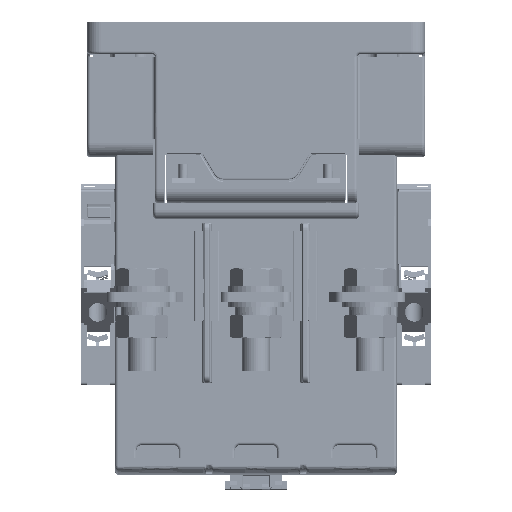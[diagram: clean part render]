
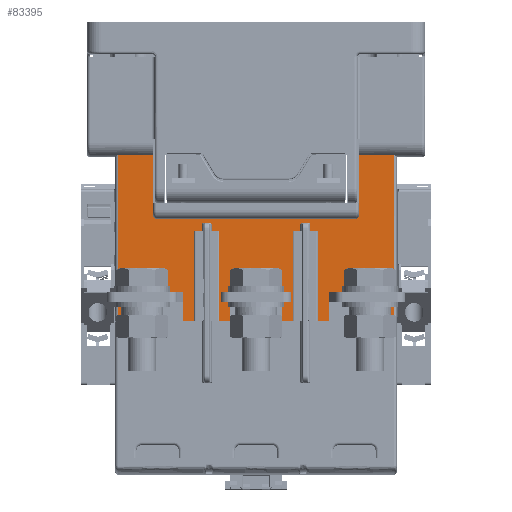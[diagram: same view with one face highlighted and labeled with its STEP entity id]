
A CAD part, top view. The second image highlights one B-rep face of the part: STEP entity #83395.
In plain terms, the highlighted planar face has unit normal (0, 0, 1).
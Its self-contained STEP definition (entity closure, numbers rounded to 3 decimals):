
#69950=DIRECTION('',(-1.,0.,0.));
#69951=VECTOR('',#69950,12.5);
#69952=CARTESIAN_POINT('',(-36.5,-18.94,57.));
#69953=LINE('',#69952,#69951);
#69954=CARTESIAN_POINT('',(-49.,-18.94,57.));
#69968=DIRECTION('',(0.,1.,0.));
#69969=VECTOR('',#69968,17.06);
#69970=CARTESIAN_POINT('',(36.5,-36.,57.));
#69971=LINE('',#69970,#69969);
#69972=DIRECTION('',(-1.,0.,0.));
#69973=VECTOR('',#69972,4.8);
#69974=CARTESIAN_POINT('',(49.,-78.,57.));
#69975=LINE('',#69974,#69973);
#69976=DIRECTION('',(0.,1.,0.));
#69977=VECTOR('',#69976,10.5);
#69978=CARTESIAN_POINT('',(44.2,-78.,57.));
#69979=LINE('',#69978,#69977);
#69980=DIRECTION('',(-1.,0.,0.));
#69981=VECTOR('',#69980,18.4);
#69982=CARTESIAN_POINT('',(44.2,-67.5,57.));
#69983=LINE('',#69982,#69981);
#69984=DIRECTION('',(0.,1.,0.));
#69985=VECTOR('',#69984,10.5);
#69986=CARTESIAN_POINT('',(25.8,-78.,57.));
#69987=LINE('',#69986,#69985);
#69988=DIRECTION('',(-1.,0.,0.));
#69989=VECTOR('',#69988,3.8);
#69990=CARTESIAN_POINT('',(25.8,-78.,57.));
#69991=LINE('',#69990,#69989);
#69992=DIRECTION('',(0.,-1.,0.));
#69993=VECTOR('',#69992,32.);
#69994=CARTESIAN_POINT('',(22.,-46.,57.));
#69995=LINE('',#69994,#69993);
#69996=DIRECTION('',(1.,0.,0.));
#69997=VECTOR('',#69996,9.);
#69998=CARTESIAN_POINT('',(13.,-46.,57.));
#69999=LINE('',#69998,#69997);
#70000=DIRECTION('',(0.,-1.,0.));
#70001=VECTOR('',#70000,32.);
#70002=CARTESIAN_POINT('',(13.,-46.,57.));
#70003=LINE('',#70002,#70001);
#70004=DIRECTION('',(-1.,0.,0.));
#70005=VECTOR('',#70004,3.8);
#70006=CARTESIAN_POINT('',(13.,-78.,57.));
#70007=LINE('',#70006,#70005);
#70008=DIRECTION('',(0.,1.,0.));
#70009=VECTOR('',#70008,10.5);
#70010=CARTESIAN_POINT('',(9.2,-78.,57.));
#70011=LINE('',#70010,#70009);
#70012=DIRECTION('',(-1.,0.,0.));
#70013=VECTOR('',#70012,18.4);
#70014=CARTESIAN_POINT('',(9.2,-67.5,57.));
#70015=LINE('',#70014,#70013);
#70016=DIRECTION('',(0.,1.,0.));
#70017=VECTOR('',#70016,10.5);
#70018=CARTESIAN_POINT('',(-9.2,-78.,57.));
#70019=LINE('',#70018,#70017);
#70020=DIRECTION('',(-1.,0.,0.));
#70021=VECTOR('',#70020,3.8);
#70022=CARTESIAN_POINT('',(-9.2,-78.,57.));
#70023=LINE('',#70022,#70021);
#70024=DIRECTION('',(0.,-1.,0.));
#70025=VECTOR('',#70024,32.);
#70026=CARTESIAN_POINT('',(-13.,-46.,57.));
#70027=LINE('',#70026,#70025);
#70028=DIRECTION('',(1.,0.,0.));
#70029=VECTOR('',#70028,9.);
#70030=CARTESIAN_POINT('',(-22.,-46.,57.));
#70031=LINE('',#70030,#70029);
#70032=DIRECTION('',(0.,-1.,0.));
#70033=VECTOR('',#70032,32.);
#70034=CARTESIAN_POINT('',(-22.,-46.,57.));
#70035=LINE('',#70034,#70033);
#70036=DIRECTION('',(-1.,0.,0.));
#70037=VECTOR('',#70036,3.8);
#70038=CARTESIAN_POINT('',(-22.,-78.,57.));
#70039=LINE('',#70038,#70037);
#70040=DIRECTION('',(0.,1.,0.));
#70041=VECTOR('',#70040,10.5);
#70042=CARTESIAN_POINT('',(-25.8,-78.,57.));
#70043=LINE('',#70042,#70041);
#70044=DIRECTION('',(-1.,0.,0.));
#70045=VECTOR('',#70044,18.4);
#70046=CARTESIAN_POINT('',(-25.8,-67.5,57.));
#70047=LINE('',#70046,#70045);
#70048=DIRECTION('',(0.,1.,0.));
#70049=VECTOR('',#70048,10.5);
#70050=CARTESIAN_POINT('',(-44.2,-78.,57.));
#70051=LINE('',#70050,#70049);
#70052=DIRECTION('',(-1.,0.,0.));
#70053=VECTOR('',#70052,4.8);
#70054=CARTESIAN_POINT('',(-44.2,-78.,57.));
#70055=LINE('',#70054,#70053);
#70056=DIRECTION('',(0.,-1.,0.));
#70057=VECTOR('',#70056,17.06);
#70058=CARTESIAN_POINT('',(-36.5,-18.94,57.));
#70059=LINE('',#70058,#70057);
#70060=DIRECTION('',(-1.,0.,0.));
#70061=VECTOR('',#70060,71.);
#70062=CARTESIAN_POINT('',(35.5,-41.5,57.));
#70063=LINE('',#70062,#70061);
#70068=DIRECTION('',(0.,-1.,0.));
#70069=VECTOR('',#70068,4.5);
#70070=CARTESIAN_POINT('',(36.5,-36.,57.));
#70071=LINE('',#70070,#70069);
#70125=DIRECTION('',(0.,1.,0.));
#70126=VECTOR('',#70125,4.5);
#70127=CARTESIAN_POINT('',(-36.5,-40.5,57.));
#70128=LINE('',#70127,#70126);
#70129=CARTESIAN_POINT('',(-35.5,-40.5,57.));
#70130=DIRECTION('',(0.,0.,-1.));
#70131=DIRECTION('',(0.,-1.,0.));
#70132=AXIS2_PLACEMENT_3D('',#70129,#70130,#70131);
#70149=CARTESIAN_POINT('',(35.5,-40.5,57.));
#70150=DIRECTION('',(0.,0.,-1.));
#70151=DIRECTION('',(1.,0.,0.));
#70152=AXIS2_PLACEMENT_3D('',#70149,#70150,#70151);
#70171=CARTESIAN_POINT('',(49.,-18.94,57.));
#70173=DIRECTION('',(-1.,0.,0.));
#70174=VECTOR('',#70173,12.5);
#70175=CARTESIAN_POINT('',(49.,-18.94,57.));
#70176=LINE('',#70175,#70174);
#70182=DIRECTION('',(0.,1.,0.));
#70183=VECTOR('',#70182,59.06);
#70184=CARTESIAN_POINT('',(49.,-78.,57.));
#70185=LINE('',#70184,#70183);
#71002=DIRECTION('',(0.,-1.,0.));
#71003=VECTOR('',#71002,59.06);
#71004=CARTESIAN_POINT('',(-49.,-18.94,57.));
#71005=LINE('',#71004,#71003);
#76702=CARTESIAN_POINT('',(-44.2,-78.,57.));
#76703=CARTESIAN_POINT('',(-44.2,-67.5,57.));
#76704=VERTEX_POINT('',#76702);
#76705=VERTEX_POINT('',#76703);
#76706=CARTESIAN_POINT('',(-25.8,-78.,57.));
#76707=CARTESIAN_POINT('',(-25.8,-67.5,57.));
#76708=VERTEX_POINT('',#76706);
#76709=VERTEX_POINT('',#76707);
#76778=CARTESIAN_POINT('',(44.2,-67.5,57.));
#76780=VERTEX_POINT('',#76778);
#76783=CARTESIAN_POINT('',(25.8,-67.5,57.));
#76785=VERTEX_POINT('',#76783);
#76830=CARTESIAN_POINT('',(44.2,-78.,57.));
#76831=VERTEX_POINT('',#76830);
#76832=CARTESIAN_POINT('',(25.8,-78.,57.));
#76833=VERTEX_POINT('',#76832);
#76862=CARTESIAN_POINT('',(-9.2,-78.,57.));
#76863=CARTESIAN_POINT('',(-9.2,-67.5,57.));
#76864=VERTEX_POINT('',#76862);
#76865=VERTEX_POINT('',#76863);
#76866=CARTESIAN_POINT('',(9.2,-78.,57.));
#76867=CARTESIAN_POINT('',(9.2,-67.5,57.));
#76868=VERTEX_POINT('',#76866);
#76869=VERTEX_POINT('',#76867);
#77062=CARTESIAN_POINT('',(-22.,-46.,57.));
#77063=CARTESIAN_POINT('',(-13.,-46.,57.));
#77064=VERTEX_POINT('',#77062);
#77065=VERTEX_POINT('',#77063);
#77066=CARTESIAN_POINT('',(13.,-46.,57.));
#77067=CARTESIAN_POINT('',(22.,-46.,57.));
#77068=VERTEX_POINT('',#77066);
#77069=VERTEX_POINT('',#77067);
#77070=CARTESIAN_POINT('',(-13.,-78.,57.));
#77071=VERTEX_POINT('',#77070);
#77072=CARTESIAN_POINT('',(-22.,-78.,57.));
#77073=VERTEX_POINT('',#77072);
#77074=CARTESIAN_POINT('',(22.,-78.,57.));
#77075=VERTEX_POINT('',#77074);
#77076=CARTESIAN_POINT('',(13.,-78.,57.));
#77077=VERTEX_POINT('',#77076);
#77207=CARTESIAN_POINT('',(49.,-78.,57.));
#77209=VERTEX_POINT('',#77207);
#77210=CARTESIAN_POINT('',(-49.,-78.,57.));
#77212=VERTEX_POINT('',#77210);
#79606=VERTEX_POINT('',#69954);
#79609=VERTEX_POINT('',#70171);
#79615=CARTESIAN_POINT('',(-36.5,-18.94,57.));
#79617=VERTEX_POINT('',#79615);
#79618=CARTESIAN_POINT('',(36.5,-18.94,57.));
#79620=VERTEX_POINT('',#79618);
#79790=CARTESIAN_POINT('',(-36.5,-40.5,57.));
#79792=VERTEX_POINT('',#79790);
#79794=CARTESIAN_POINT('',(-35.5,-41.5,57.));
#79796=VERTEX_POINT('',#79794);
#79799=CARTESIAN_POINT('',(35.5,-41.5,57.));
#79801=VERTEX_POINT('',#79799);
#79803=CARTESIAN_POINT('',(36.5,-40.5,57.));
#79805=VERTEX_POINT('',#79803);
#79974=CARTESIAN_POINT('',(-36.5,-36.,57.));
#79975=VERTEX_POINT('',#79974);
#79976=CARTESIAN_POINT('',(36.5,-36.,57.));
#79977=VERTEX_POINT('',#79976);
#83334=CARTESIAN_POINT('',(-60.,-19.5,57.));
#83335=DIRECTION('',(0.,0.,-1.));
#83336=DIRECTION('',(0.,-1.,0.));
#83337=AXIS2_PLACEMENT_3D('',#83334,#83335,#83336);
#83338=PLANE('',#83337);
#83340=ORIENTED_EDGE('',*,*,#83339,.F.);
#83342=ORIENTED_EDGE('',*,*,#83341,.T.);
#83344=ORIENTED_EDGE('',*,*,#83343,.F.);
#83346=ORIENTED_EDGE('',*,*,#83345,.F.);
#83347=ORIENTED_EDGE('',*,*,#82015,.T.);
#83348=ORIENTED_EDGE('',*,*,#82292,.T.);
#83350=ORIENTED_EDGE('',*,*,#83349,.T.);
#83352=ORIENTED_EDGE('',*,*,#83351,.F.);
#83353=ORIENTED_EDGE('',*,*,#82182,.T.);
#83355=ORIENTED_EDGE('',*,*,#83354,.F.);
#83357=ORIENTED_EDGE('',*,*,#83356,.F.);
#83359=ORIENTED_EDGE('',*,*,#83358,.T.);
#83360=ORIENTED_EDGE('',*,*,#82198,.T.);
#83362=ORIENTED_EDGE('',*,*,#83361,.T.);
#83364=ORIENTED_EDGE('',*,*,#83363,.T.);
#83366=ORIENTED_EDGE('',*,*,#83365,.F.);
#83367=ORIENTED_EDGE('',*,*,#82234,.T.);
#83369=ORIENTED_EDGE('',*,*,#83368,.F.);
#83371=ORIENTED_EDGE('',*,*,#83370,.F.);
#83373=ORIENTED_EDGE('',*,*,#83372,.T.);
#83374=ORIENTED_EDGE('',*,*,#82249,.T.);
#83375=ORIENTED_EDGE('',*,*,#81883,.T.);
#83377=ORIENTED_EDGE('',*,*,#83376,.T.);
#83378=ORIENTED_EDGE('',*,*,#81992,.F.);
#83379=ORIENTED_EDGE('',*,*,#82054,.T.);
#83381=ORIENTED_EDGE('',*,*,#83380,.F.);
#83382=ORIENTED_EDGE('',*,*,#83325,.F.);
#83384=ORIENTED_EDGE('',*,*,#83383,.T.);
#83386=ORIENTED_EDGE('',*,*,#83385,.F.);
#83388=ORIENTED_EDGE('',*,*,#83387,.F.);
#83390=ORIENTED_EDGE('',*,*,#83389,.F.);
#83392=ORIENTED_EDGE('',*,*,#83391,.F.);
#83393=EDGE_LOOP('',(#83340,#83342,#83344,#83346,#83347,#83348,#83350,#83352,
#83353,#83355,#83357,#83359,#83360,#83362,#83364,#83366,#83367,#83369,#83371,
#83373,#83374,#83375,#83377,#83378,#83379,#83381,#83382,#83384,#83386,#83388,
#83390,#83392));
#83394=FACE_OUTER_BOUND('',#83393,.F.);
#83395=ADVANCED_FACE('',(#83394),#83338,.F.);
#70133=CIRCLE('',#70132,1.);
#70153=CIRCLE('',#70152,1.);
#81883=EDGE_CURVE('',#76708,#76709,#70043,.T.);
#81992=EDGE_CURVE('',#76704,#76705,#70051,.T.);
#82015=EDGE_CURVE('',#77209,#76831,#69975,.T.);
#82054=EDGE_CURVE('',#76704,#77212,#70055,.T.);
#82182=EDGE_CURVE('',#76833,#77075,#69991,.T.);
#82198=EDGE_CURVE('',#77077,#76868,#70007,.T.);
#82234=EDGE_CURVE('',#76864,#77071,#70023,.T.);
#82249=EDGE_CURVE('',#77073,#76708,#70039,.T.);
#82292=EDGE_CURVE('',#76831,#76780,#69979,.T.);
#83325=EDGE_CURVE('',#79617,#79606,#69953,.T.);
#83339=EDGE_CURVE('',#79977,#79805,#70071,.T.);
#83341=EDGE_CURVE('',#79977,#79620,#69971,.T.);
#83343=EDGE_CURVE('',#79609,#79620,#70176,.T.);
#83345=EDGE_CURVE('',#77209,#79609,#70185,.T.);
#83349=EDGE_CURVE('',#76780,#76785,#69983,.T.);
#83351=EDGE_CURVE('',#76833,#76785,#69987,.T.);
#83354=EDGE_CURVE('',#77069,#77075,#69995,.T.);
#83356=EDGE_CURVE('',#77068,#77069,#69999,.T.);
#83358=EDGE_CURVE('',#77068,#77077,#70003,.T.);
#83361=EDGE_CURVE('',#76868,#76869,#70011,.T.);
#83363=EDGE_CURVE('',#76869,#76865,#70015,.T.);
#83365=EDGE_CURVE('',#76864,#76865,#70019,.T.);
#83368=EDGE_CURVE('',#77065,#77071,#70027,.T.);
#83370=EDGE_CURVE('',#77064,#77065,#70031,.T.);
#83372=EDGE_CURVE('',#77064,#77073,#70035,.T.);
#83376=EDGE_CURVE('',#76709,#76705,#70047,.T.);
#83380=EDGE_CURVE('',#79606,#77212,#71005,.T.);
#83383=EDGE_CURVE('',#79617,#79975,#70059,.T.);
#83385=EDGE_CURVE('',#79792,#79975,#70128,.T.);
#83387=EDGE_CURVE('',#79796,#79792,#70133,.T.);
#83389=EDGE_CURVE('',#79801,#79796,#70063,.T.);
#83391=EDGE_CURVE('',#79805,#79801,#70153,.T.);
